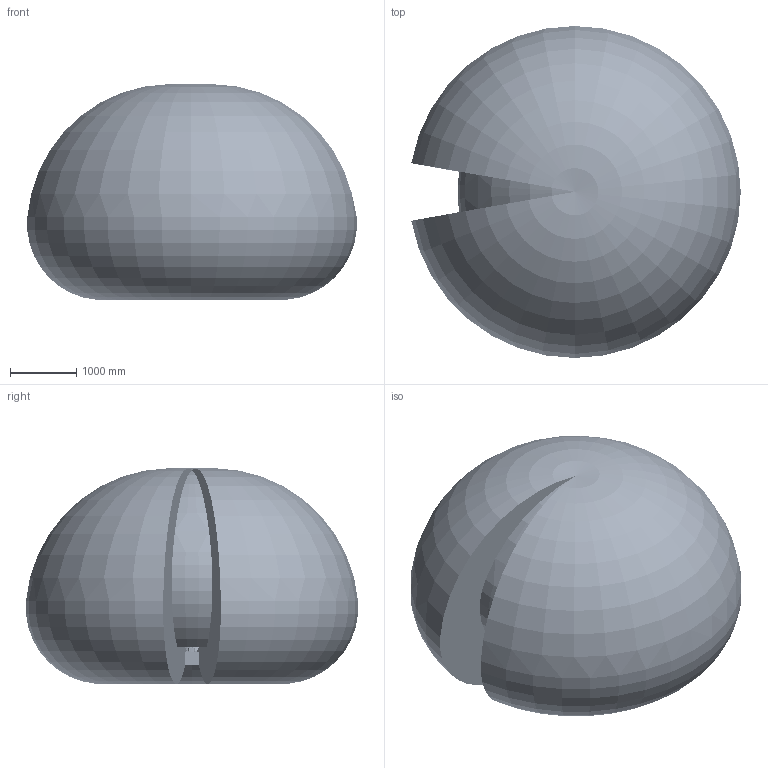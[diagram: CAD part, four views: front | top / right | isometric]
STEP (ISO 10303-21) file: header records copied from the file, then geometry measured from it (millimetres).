
FILE_DESCRIPTION (( 'STEP AP214' ), '1' );
FILE_NAME ('IRB6720-LID-MH_215kg-250_OC_01_ASM_CAD.step', '2026-05-26T07:16:42', ( '' ), ( '' ), 'SwSTEP 2.0', 'SolidWorks 2024', '' );
FILE_SCHEMA (( 'AUTOMOTIVE_DESIGN' ));
Length unit declared in the file: millimetre
Products named in the file (20): IRB6720-LID_215kg-250_OC_00_Working-space; IRB6720-LID_215kg-250_OC_00_CYL_CAD; IRB6720-LID-MH_215kg-250_OC_01_ASM_CAD; IRB6720-LID_215kg-250_OC_00_BASE_CAD; IRB6720-LID-MH_215kg-250_OC_00_LINK02_CABLE; IRB6720-LID_215kg-250_OC_00_LINK04_CABLE; IRB6720-LID_215kg-250_OC_00_LINK06_CABLE; IRB6720-LID_215kg-250_OC_00_LINK01m_CABLE; IRB6720-LID_215kg-250_OC_00_LINK02_CAD; IRB6720-LID_215kg-250_OC_00_LINK02m_CABLE; IRB6720-LID_215kg-250_OC_00_LINK03_CAD; IRB6720-LID-MH_215kg-250_OC_00_LINK03b_CABLE; IRB6720-LID_215kg-250_OC_00_LINK01_CAD; IRB6720-LID-MH_215kg-250_OC_00_LINK01_CABLE; IRB6720-LID_215kg-250_OC_00_ROD_CAD; IRB6720-LID_215kg-250_OC_00_LINK03m_CABLE; IRB6720-LID_215kg-250_OC_00_LINK04_CAD; IRB6720-LID_215kg-250_OC_01_LINK05_CAD; IRB6720-LID_215kg-250_OC_00_LINK05_CABLE; IRB6720-LID-MH_215kg-250_OC_00_LINK03a_CABLE
Assembly tree (19 placements, depth 2):
  IRB6720-LID-MH_215kg-250_OC_01_ASM_CAD
    IRB6720-LID_215kg-250_OC_00_BASE_CAD
    IRB6720-LID_215kg-250_OC_00_CYL_CAD
    IRB6720-LID_215kg-250_OC_00_LINK01_CAD
    IRB6720-LID_215kg-250_OC_00_LINK02_CAD
    IRB6720-LID_215kg-250_OC_00_LINK03_CAD
    IRB6720-LID_215kg-250_OC_00_LINK04_CAD
    IRB6720-LID_215kg-250_OC_01_LINK05_CAD
    IRB6720-LID_215kg-250_OC_00_ROD_CAD
    IRB6720-LID_215kg-250_OC_00_LINK01m_CABLE
    IRB6720-LID_215kg-250_OC_00_LINK02m_CABLE
    IRB6720-LID_215kg-250_OC_00_LINK03m_CABLE
    IRB6720-LID-MH_215kg-250_OC_00_LINK01_CABLE
    IRB6720-LID-MH_215kg-250_OC_00_LINK02_CABLE
    IRB6720-LID-MH_215kg-250_OC_00_LINK03a_CABLE
    IRB6720-LID-MH_215kg-250_OC_00_LINK03b_CABLE
    IRB6720-LID_215kg-250_OC_00_LINK04_CABLE
    IRB6720-LID_215kg-250_OC_00_LINK05_CABLE
    IRB6720-LID_215kg-250_OC_00_LINK06_CABLE
    IRB6720-LID_215kg-250_OC_00_Working-space
Bounding box: 4955.49 x 4993.42 x 3240.2 mm (x, y, z)
Volume: 42037383608 mm3; surface area: 95320955 mm2
Topology: 21 solids, 38 shells, 9496 faces, 24200 edges, 15379 vertices
Faces by surface type: plane 4333, cylinder 2519, cone 1332, bspline 834, torus 427, sphere 51
Entity records: 756249 total; most frequent: CARTESIAN_POINT 437735, ORIENTED_EDGE 48056, DIRECTION 43154, EDGE_CURVE 24028, AXIS2_PLACEMENT_3D 15879, VERTEX_POINT 15377, VECTOR 11396, LINE 11396
